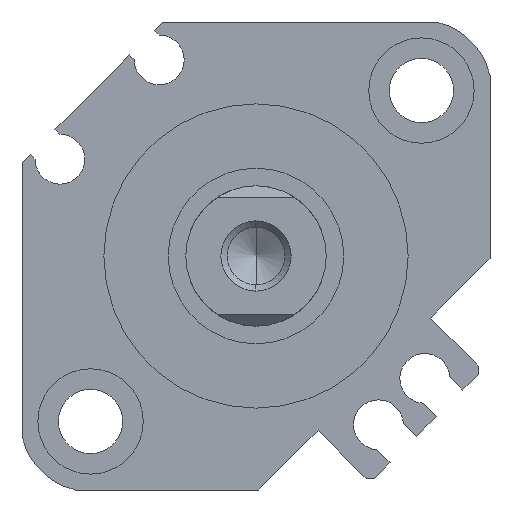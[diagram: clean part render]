
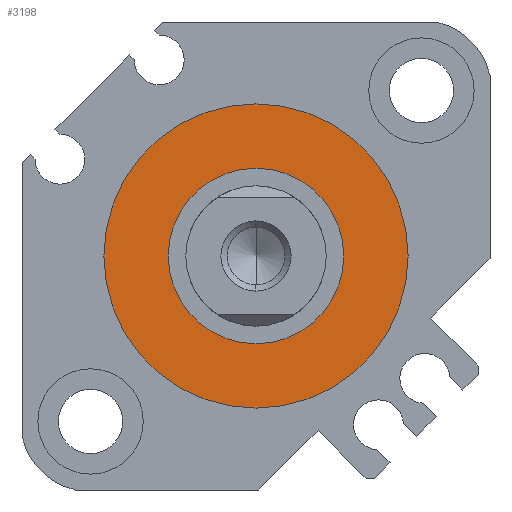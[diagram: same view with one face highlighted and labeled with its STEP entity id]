
A CAD part, left-side view. The second image highlights one B-rep face of the part: STEP entity #3198.
In plain terms, the highlighted planar face has unit normal (-1, 0, 0).
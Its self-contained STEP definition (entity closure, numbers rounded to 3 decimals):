
#113 = DIRECTION ( 'NONE',  ( 1., 0., 0. ) ) ;
#124 = VERTEX_POINT ( 'NONE', #1544 ) ;
#248 = VERTEX_POINT ( 'NONE', #2674 ) ;
#266 = CARTESIAN_POINT ( 'NONE',  ( 1.9, 0., -7.5 ) ) ;
#388 = CARTESIAN_POINT ( 'NONE',  ( 1.9, 0., 0. ) ) ;
#418 = DIRECTION ( 'NONE',  ( 0., 1., 0. ) ) ;
#491 = DIRECTION ( 'NONE',  ( 1., 0., 0. ) ) ;
#648 = AXIS2_PLACEMENT_3D ( 'NONE', #388, #917, #418 ) ;
#731 = VERTEX_POINT ( 'NONE', #2984 ) ;
#746 = CARTESIAN_POINT ( 'NONE',  ( 1.9, 0., 0. ) ) ;
#751 = ORIENTED_EDGE ( 'NONE', *, *, #2188, .F. ) ;
#784 = DIRECTION ( 'NONE',  ( 0., 0., -1. ) ) ;
#905 = AXIS2_PLACEMENT_3D ( 'NONE', #1031, #491, #784 ) ;
#917 = DIRECTION ( 'NONE',  ( 1., 0., 0. ) ) ;
#988 = CIRCLE ( 'NONE', #1601, 7.5 ) ;
#1031 = CARTESIAN_POINT ( 'NONE',  ( 1.9, 0., 0. ) ) ;
#1035 = ORIENTED_EDGE ( 'NONE', *, *, #3139, .T. ) ;
#1052 = VERTEX_POINT ( 'NONE', #266 ) ;
#1132 = AXIS2_PLACEMENT_3D ( 'NONE', #746, #2546, #3315 ) ;
#1178 = PLANE ( 'NONE',  #648 ) ;
#1194 = FACE_OUTER_BOUND ( 'NONE', #2320, .T. ) ;
#1322 = DIRECTION ( 'NONE',  ( 1., 0., 0. ) ) ;
#1466 = DIRECTION ( 'NONE',  ( 0., 0., -1. ) ) ;
#1544 = CARTESIAN_POINT ( 'NONE',  ( 1.9, 0., -13. ) ) ;
#1601 = AXIS2_PLACEMENT_3D ( 'NONE', #2783, #113, #1466 ) ;
#1686 = CIRCLE ( 'NONE', #1132, 7.5 ) ;
#1739 = FACE_BOUND ( 'NONE', #1886, .T. ) ;
#1886 = EDGE_LOOP ( 'NONE', ( #2708, #1035 ) ) ;
#2053 = EDGE_CURVE ( 'NONE', #248, #1052, #1686, .T. ) ;
#2188 = EDGE_CURVE ( 'NONE', #124, #731, #2409, .T. ) ;
#2224 = EDGE_CURVE ( 'NONE', #731, #124, #2797, .T. ) ;
#2320 = EDGE_LOOP ( 'NONE', ( #2791, #751 ) ) ;
#2383 = DIRECTION ( 'NONE',  ( 0., 0., -1. ) ) ;
#2409 = CIRCLE ( 'NONE', #905, 13. ) ;
#2546 = DIRECTION ( 'NONE',  ( 1., 0., 0. ) ) ;
#2674 = CARTESIAN_POINT ( 'NONE',  ( 1.9, 0., 7.5 ) ) ;
#2708 = ORIENTED_EDGE ( 'NONE', *, *, #2053, .T. ) ;
#2783 = CARTESIAN_POINT ( 'NONE',  ( 1.9, 0., 0. ) ) ;
#2791 = ORIENTED_EDGE ( 'NONE', *, *, #2224, .F. ) ;
#2797 = CIRCLE ( 'NONE', #2851, 13. ) ;
#2851 = AXIS2_PLACEMENT_3D ( 'NONE', #2886, #1322, #2383 ) ;
#2886 = CARTESIAN_POINT ( 'NONE',  ( 1.9, 0., 0. ) ) ;
#2984 = CARTESIAN_POINT ( 'NONE',  ( 1.9, 0., 13. ) ) ;
#3139 = EDGE_CURVE ( 'NONE', #1052, #248, #988, .T. ) ;
#3198 = ADVANCED_FACE ( 'NONE', ( #1194, #1739 ), #1178, .F. ) ;
#3315 = DIRECTION ( 'NONE',  ( 0., 0., -1. ) ) ;
